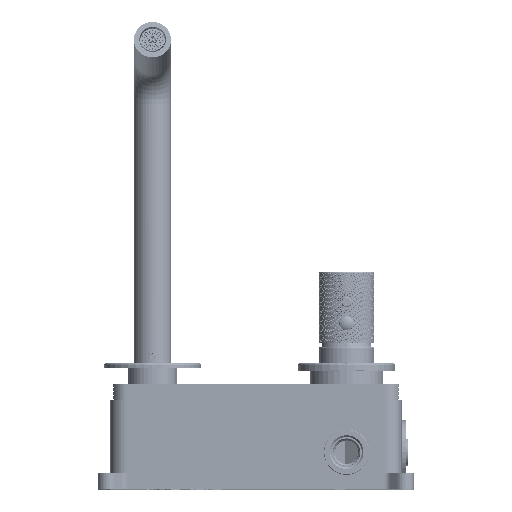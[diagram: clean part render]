
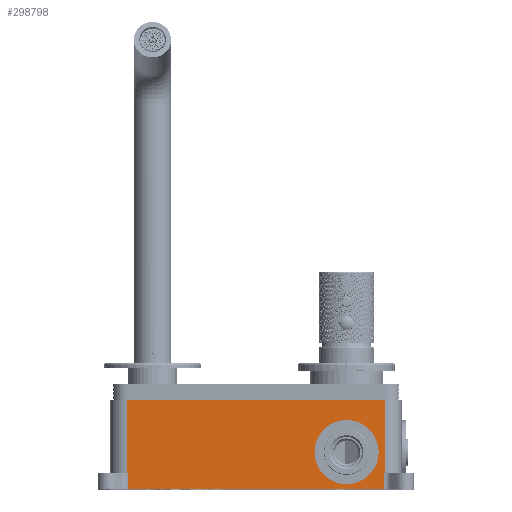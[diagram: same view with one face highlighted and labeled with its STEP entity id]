
A CAD part, top view. The second image highlights one B-rep face of the part: STEP entity #298798.
In plain terms, the highlighted planar face has unit normal (0, 0, 1).
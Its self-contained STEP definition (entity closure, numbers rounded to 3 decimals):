
#289849=DIRECTION('',(0.,1.,0.));
#289850=VECTOR('',#289849,10.);
#289851=CARTESIAN_POINT('',(79.444,0.,35.));
#289852=LINE('',#289851,#289850);
#289857=DIRECTION('',(-1.,0.,0.));
#289858=VECTOR('',#289857,158.887);
#289859=CARTESIAN_POINT('',(79.444,0.,35.));
#289860=LINE('',#289859,#289858);
#289861=DIRECTION('',(-1.,0.,0.));
#289862=VECTOR('',#289861,0.556);
#289863=CARTESIAN_POINT('',(-79.444,10.,35.));
#289864=LINE('',#289863,#289862);
#289865=DIRECTION('',(-1.,0.,0.));
#289866=VECTOR('',#289865,0.556);
#289867=CARTESIAN_POINT('',(80.,10.,35.));
#289868=LINE('',#289867,#289866);
#289869=CARTESIAN_POINT('',(56.,23.,35.));
#289870=DIRECTION('',(0.,0.,1.));
#289871=DIRECTION('',(1.,0.,0.));
#289872=AXIS2_PLACEMENT_3D('',#289869,#289870,#289871);
#289874=CARTESIAN_POINT('',(56.,23.,35.));
#289875=DIRECTION('',(0.,0.,1.));
#289876=DIRECTION('',(-1.,0.,0.));
#289877=AXIS2_PLACEMENT_3D('',#289874,#289875,#289876);
#289879=DIRECTION('',(0.,-1.,0.));
#289880=VECTOR('',#289879,10.);
#289881=CARTESIAN_POINT('',(-79.444,10.,35.));
#289882=LINE('',#289881,#289880);
#290076=DIRECTION('',(-1.,0.,0.));
#290077=VECTOR('',#290076,160.);
#290078=CARTESIAN_POINT('',(80.,55.,35.));
#290079=LINE('',#290078,#290077);
#290104=DIRECTION('',(0.,-1.,0.));
#290105=VECTOR('',#290104,45.);
#290106=CARTESIAN_POINT('',(-80.,55.,35.));
#290107=LINE('',#290106,#290105);
#290270=DIRECTION('',(0.,1.,0.));
#290271=VECTOR('',#290270,45.);
#290272=CARTESIAN_POINT('',(80.,10.,35.));
#290273=LINE('',#290272,#290271);
#295689=CARTESIAN_POINT('',(-79.444,0.,35.));
#295690=VERTEX_POINT('',#295689);
#295691=CARTESIAN_POINT('',(79.444,0.,35.));
#295692=VERTEX_POINT('',#295691);
#296477=CARTESIAN_POINT('',(79.444,10.,35.));
#296478=VERTEX_POINT('',#296477);
#296479=CARTESIAN_POINT('',(80.,10.,35.));
#296480=VERTEX_POINT('',#296479);
#296559=CARTESIAN_POINT('',(-80.,10.,35.));
#296560=VERTEX_POINT('',#296559);
#296561=CARTESIAN_POINT('',(-79.444,10.,35.));
#296562=VERTEX_POINT('',#296561);
#296581=CARTESIAN_POINT('',(-80.,55.,35.));
#296582=VERTEX_POINT('',#296581);
#296583=CARTESIAN_POINT('',(80.,55.,35.));
#296584=VERTEX_POINT('',#296583);
#296585=CARTESIAN_POINT('',(75.85,23.,35.));
#296586=CARTESIAN_POINT('',(36.15,23.,35.));
#296587=VERTEX_POINT('',#296585);
#296588=VERTEX_POINT('',#296586);
#298772=CARTESIAN_POINT('',(-90.,0.,35.));
#298773=DIRECTION('',(0.,0.,1.));
#298774=DIRECTION('',(1.,0.,0.));
#298775=AXIS2_PLACEMENT_3D('',#298772,#298773,#298774);
#298776=PLANE('',#298775);
#298777=ORIENTED_EDGE('',*,*,#298764,.F.);
#298778=ORIENTED_EDGE('',*,*,#297923,.T.);
#298780=ORIENTED_EDGE('',*,*,#298779,.F.);
#298782=ORIENTED_EDGE('',*,*,#298781,.T.);
#298784=ORIENTED_EDGE('',*,*,#298783,.F.);
#298786=ORIENTED_EDGE('',*,*,#298785,.F.);
#298788=ORIENTED_EDGE('',*,*,#298787,.F.);
#298789=ORIENTED_EDGE('',*,*,#298717,.T.);
#298790=EDGE_LOOP('',(#298777,#298778,#298780,#298782,#298784,#298786,#298788,
#298789));
#298791=FACE_OUTER_BOUND('',#298790,.F.);
#298793=ORIENTED_EDGE('',*,*,#298792,.T.);
#298795=ORIENTED_EDGE('',*,*,#298794,.T.);
#298796=EDGE_LOOP('',(#298793,#298795));
#298797=FACE_BOUND('',#298796,.F.);
#289873=CIRCLE('',#289872,19.85);
#289878=CIRCLE('',#289877,19.85);
#297923=EDGE_CURVE('',#295692,#295690,#289860,.T.);
#298717=EDGE_CURVE('',#296480,#296478,#289868,.T.);
#298764=EDGE_CURVE('',#295692,#296478,#289852,.T.);
#298779=EDGE_CURVE('',#296562,#295690,#289882,.T.);
#298781=EDGE_CURVE('',#296562,#296560,#289864,.T.);
#298783=EDGE_CURVE('',#296582,#296560,#290107,.T.);
#298785=EDGE_CURVE('',#296584,#296582,#290079,.T.);
#298787=EDGE_CURVE('',#296480,#296584,#290273,.T.);
#298792=EDGE_CURVE('',#296587,#296588,#289873,.T.);
#298794=EDGE_CURVE('',#296588,#296587,#289878,.T.);
#298798=ADVANCED_FACE('',(#298791,#298797),#298776,.T.);
